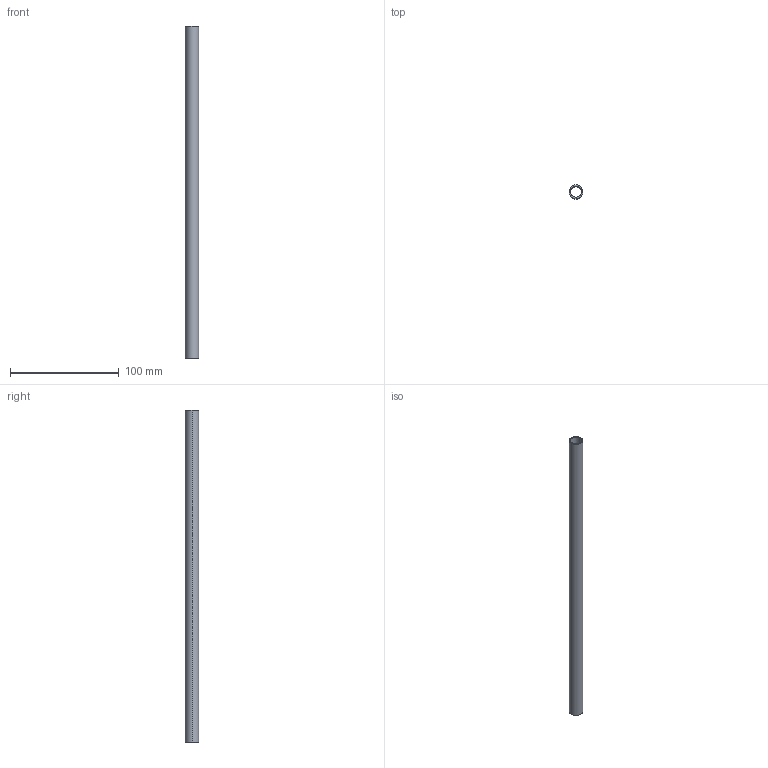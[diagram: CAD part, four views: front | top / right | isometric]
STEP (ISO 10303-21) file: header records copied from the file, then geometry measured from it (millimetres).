
FILE_DESCRIPTION (( 'STEP AP214' ), '1' );
FILE_NAME ('.5 x .1W Tube.STEP', '2010-08-12T18:16:44', ( '' ), ( '' ), 'SwSTEP 2.0', 'SolidWorks 2010', '' );
FILE_SCHEMA (( 'AUTOMOTIVE_DESIGN' ));
Length unit declared in the file: inch
Products named in the file (1): .5 x .1W Tube
Bounding box: 12.7 x 12.7 x 304.8 mm (x, y, z)
Volume: 13900 mm3; surface area: 21981 mm2
Topology: 1 solids, 1 shells, 6 faces, 12 edges, 8 vertices
Faces by surface type: cylinder 4, plane 2
Entity records: 208 total; most frequent: DIRECTION 34, CARTESIAN_POINT 27, ORIENTED_EDGE 24, AXIS2_PLACEMENT_3D 15, EDGE_CURVE 12, VERTEX_POINT 8, EDGE_LOOP 8, CIRCLE 8
